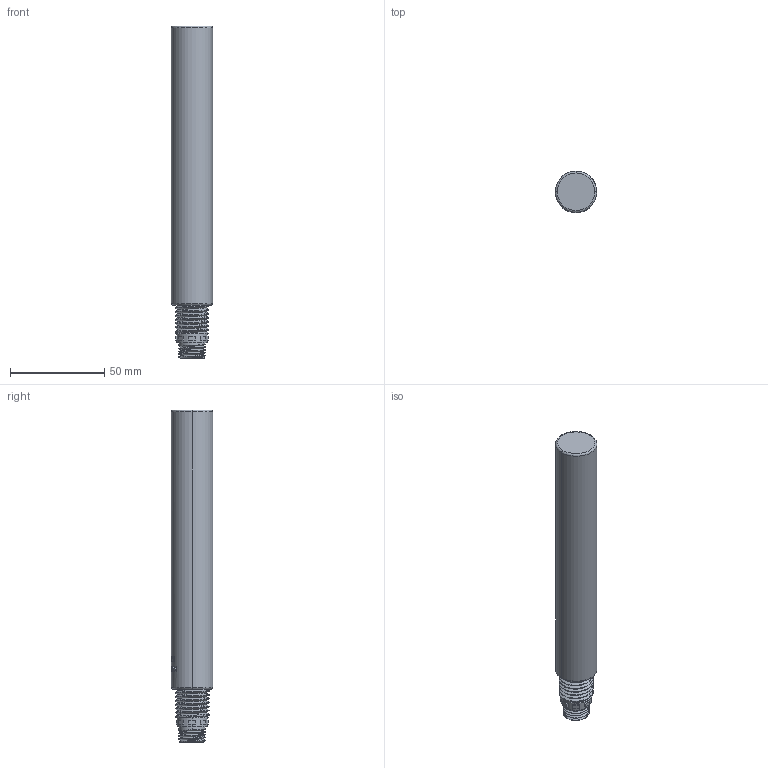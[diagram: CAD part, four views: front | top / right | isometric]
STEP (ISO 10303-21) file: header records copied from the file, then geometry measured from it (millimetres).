
FILE_DESCRIPTION((''),'2;1');
FILE_NAME('ASM0004_ASM','2025-12-26T17:26:42',('28740194'),(''),'CREO PARAMETRIC BY PTC INC, 2024063','CREO PARAMETRIC BY PTC INC, 2024063','');
FILE_SCHEMA(('CONFIG_CONTROL_DESIGN'));
Length unit declared in the file: millimetre
Products named in the file (5): KWS-900-1; 30001; 11120; 180_ASM; ASM0004_ASM
Assembly tree (4 placements, depth 3):
  ASM0004_ASM
    KWS-900-1
    180_ASM
      30001
      11120
Bounding box: 22 x 22.15 x 176.5 mm (x, y, z)
Volume: 4810.8 mm3; surface area: 14388.7 mm2
Topology: 2 solids, 5 shells, 504 faces, 1403 edges, 936 vertices
Faces by surface type: bspline 391, cylinder 56, plane 53, torus 4
Entity records: 24011 total; most frequent: CARTESIAN_POINT 13847, ORIENTED_EDGE 2782, EDGE_CURVE 1403, B_SPLINE_CURVE_WITH_KNOTS 958, VERTEX_POINT 936, DIRECTION 880, EDGE_LOOP 534, FACE_OUTER_BOUND 504
